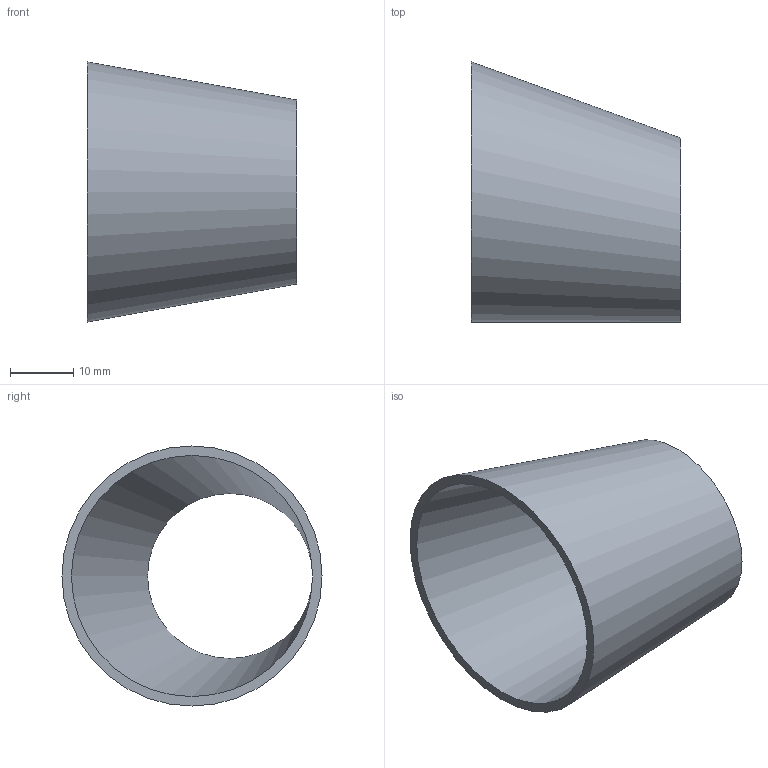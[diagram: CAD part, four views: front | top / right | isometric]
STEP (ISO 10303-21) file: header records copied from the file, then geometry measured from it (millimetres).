
FILE_DESCRIPTION(('FreeCAD Model'),'2;1');
FILE_NAME( '/home/martin/Documents/proyect/accesorios/stp/red-exc_DN40-25.step', '2017-12-31T13:03:09',('Author'),(''), 'Open CASCADE STEP processor 6.8','FreeCAD','Unknown');
FILE_SCHEMA(('AUTOMOTIVE_DESIGN_CC2 { 1 2 10303 214 -1 1 5 4 }'));
Length unit declared in the file: millimetre
Products named in the file (1): red-exc_DN40-25
Bounding box: 33 x 41 x 41 mm (x, y, z)
Volume: 5209.5 mm3; surface area: 7430.1 mm2
Topology: 1 solids, 1 shells, 4 faces, 6 edges, 4 vertices
Faces by surface type: bspline 2, plane 2
Entity records: 247 total; most frequent: CARTESIAN_POINT 87, DIRECTION 26, ORIENTED_EDGE 12, PCURVE 12, DEFINITIONAL_REPRESENTATION 12, CIRCLE 8, LINE 8, VECTOR 8
